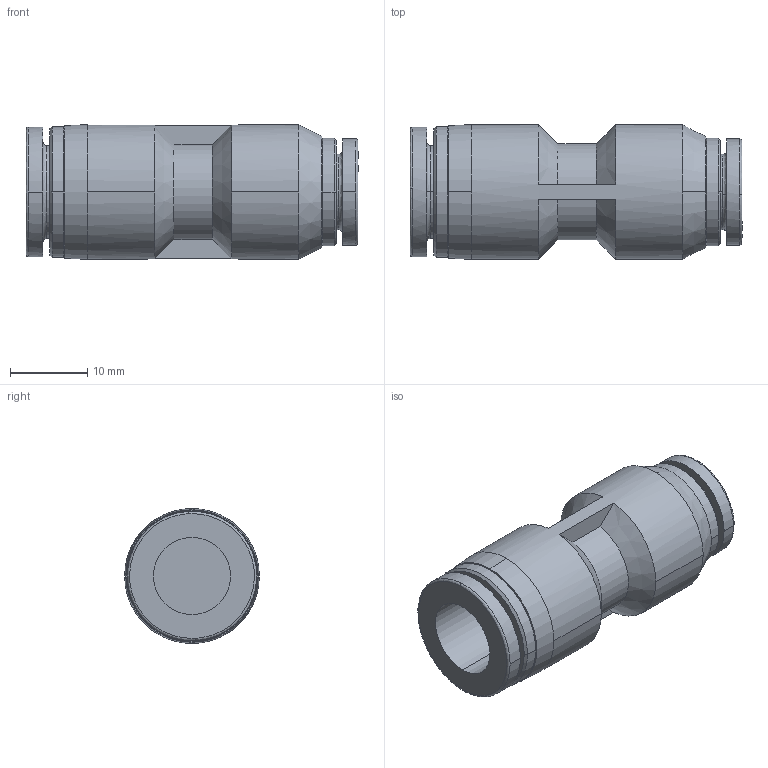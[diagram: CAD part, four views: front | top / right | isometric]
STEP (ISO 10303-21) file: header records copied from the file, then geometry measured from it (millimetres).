
FILE_DESCRIPTION (( 'STEP AP214' ), '1' );
FILE_NAME ('KQ2H08-10A.STEP', '2023-03-06T07:56:51', ( 'Windows User' ), ( 'P R C' ), 'SwSTEP 2.0', 'SolidWorks 2019', '' );
FILE_SCHEMA (( 'AUTOMOTIVE_DESIGN' ));
Length unit declared in the file: millimetre
Products named in the file (1): KQ2H08-10A
Bounding box: 43.1 x 17.5 x 17.5 mm (x, y, z)
Volume: 6236.9 mm3; surface area: 4161.3 mm2
Topology: 1 solids, 1 shells, 61 faces, 151 edges, 100 vertices
Faces by surface type: cylinder 21, cone 18, plane 14, bspline 8
Entity records: 2369 total; most frequent: CARTESIAN_POINT 881, DIRECTION 321, ORIENTED_EDGE 302, EDGE_CURVE 151, AXIS2_PLACEMENT_3D 140, VERTEX_POINT 100, CIRCLE 86, EDGE_LOOP 69
